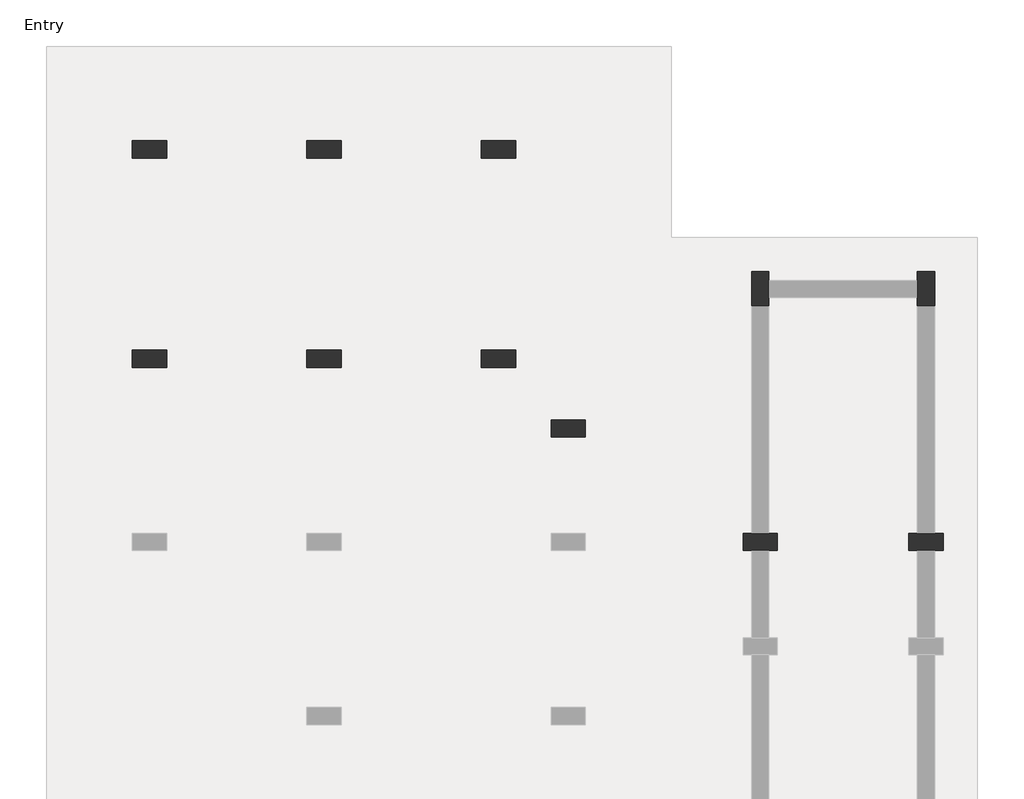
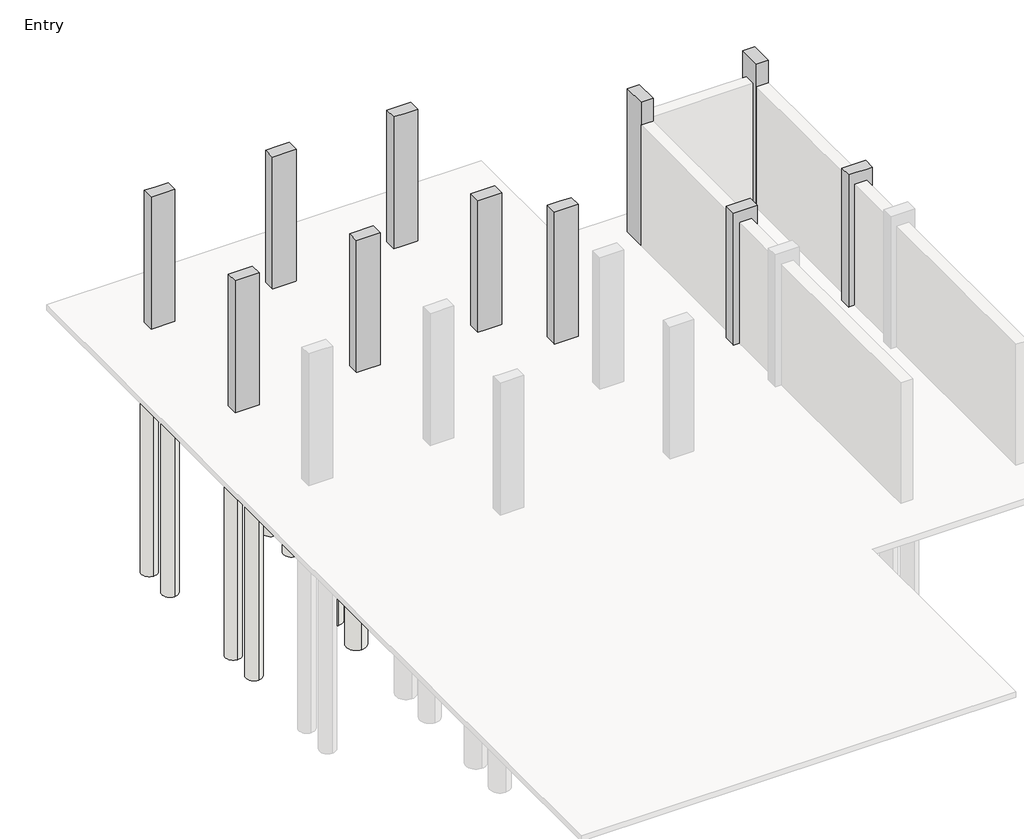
# One storey, part 3 of 3: 33 slabs, 11 columns, 4 footings.
"""IFC4 building model written with IfcOpenShell, lengths in millimetres."""

from ifc_helpers import new_model, si_unit, point, frame, frame_2d, origin, place, context, project, spatial, polyline, circle_curve, trimmed, segment, composite_curve, outline, extrude, faceted_brep, element, save

model = new_model("IFC4")

# Units and contexts
model_context = context("Model", 3, world=origin())
ifc_project = project(units=[si_unit("LENGTHUNIT", "METRE", prefix="MILLI")], contexts=[model_context])

# Site, building, storey
site = spatial("IfcSite", under=ifc_project)
building = spatial("IfcBuilding", under=site)
storey = spatial("IfcBuildingStorey", under=building, Name="Entry", Elevation=0.0)

# Columns
placement = place(None, origin())
element("IfcColumn", 1, ObjectType="M_Concrete-Rectangular-Column : 300 x 600mm", at=placement, inside=storey, context=model_context, shape_type="Brep", body=[
    faceted_brep([(-14312.7526929, 13307.19569, 0.0), (-13712.7526929, 13307.19569, 0.0), (-13712.7526929, 13007.19569, 0.0), (-14312.7526929, 13007.19569, 0.0), (-14312.7526929, 13307.19569, 3505.2), (-14012.7526929, 13307.19569, 3505.2), (-13712.7526929, 13307.19569, 3505.2), (-13712.7526929, 13307.19569, 2910.0), (-13712.7526929, 13007.19569, 3505.2), (-13712.7526929, 13007.19569, 2910.0), (-14012.7526929, 13007.19569, 3505.2), (-14162.7526929, 13007.19569, 3505.2), (-14312.7526929, 13007.19569, 3505.2)], [[[0, 1, 2, 3]], [[4, 5, 6, 7, 1, 0]], [[6, 8, 9, 2, 1, 7]], [[8, 10, 11, 12, 3, 2, 9]], [[12, 4, 0, 3]], [[4, 12, 11, 10, 8, 6, 5]]]),
])
element("IfcColumn", 2, ObjectType="M_Concrete-Rectangular-Column : 300 x 600mm", at=placement, inside=storey, context=model_context, shape_type="Brep", body=[
    faceted_brep([(-11264.7526929, 13307.19569, 0.0), (-10664.7526929, 13307.19569, 0.0), (-10664.7526929, 13007.19569, 0.0), (-11264.7526929, 13007.19569, 0.0), (-11264.7526929, 13307.19569, 3505.2), (-10964.7526929, 13307.19569, 3505.2), (-10664.7526929, 13307.19569, 3505.2), (-10664.7526929, 13307.19569, 2910.0), (-11264.7526929, 13307.19569, 2910.0), (-10664.7526929, 13007.19569, 3505.2), (-10664.7526929, 13007.19569, 2910.0), (-10814.7526929, 13007.19569, 3505.2), (-10964.7526929, 13007.19569, 3505.2), (-11264.7526929, 13007.19569, 3505.2), (-11264.7526929, 13007.19569, 2910.0)], [[[0, 1, 2, 3]], [[4, 5, 6, 7, 1, 0, 8]], [[6, 9, 10, 2, 1, 7]], [[9, 11, 12, 13, 14, 3, 2, 10]], [[13, 4, 8, 0, 3, 14]], [[4, 13, 12, 11, 9, 6, 5]]]),
])
element("IfcColumn", 3, ObjectType="M_Concrete-Rectangular-Column : 300 x 600mm", at=placement, inside=storey, context=model_context, shape_type="Brep", body=[
    faceted_brep([(-8216.7526929, 13307.19569, 0.0), (-7616.7526929, 13307.19569, 0.0), (-7616.7526929, 13007.19569, 0.0), (-8216.7526929, 13007.19569, 0.0), (-8216.7526929, 13307.19569, 3505.2), (-7916.7526929, 13307.19569, 3505.2), (-7616.7526929, 13307.19569, 3505.2), (-8216.7526929, 13307.19569, 2910.0), (-7616.7526929, 13007.19569, 3505.2), (-7766.7526929, 13007.19569, 3505.2), (-7916.7526929, 13007.19569, 3505.2), (-8216.7526929, 13007.19569, 3505.2), (-8216.7526929, 13007.19569, 2910.0)], [[[0, 1, 2, 3]], [[4, 5, 6, 1, 0, 7]], [[6, 8, 2, 1]], [[8, 9, 10, 11, 12, 3, 2]], [[11, 4, 7, 0, 3, 12]], [[4, 11, 10, 9, 8, 6, 5]]]),
])
element("IfcColumn", 4, ObjectType="M_Concrete-Rectangular-Column : 300 x 600mm", at=placement, inside=storey, context=model_context, shape_type="Brep", body=[
    faceted_brep([(-14312.7526929, 9649.59569, 0.0), (-13712.7526929, 9649.59569, 0.0), (-13712.7526929, 9349.59569, 0.0), (-14312.7526929, 9349.59569, 0.0), (-14312.7526929, 9649.59569, 3505.2), (-14162.7526929, 9649.59569, 3505.2), (-13862.7526929, 9649.59569, 3505.2), (-13712.7526929, 9649.59569, 3505.2), (-13712.7526929, 9649.59569, 2910.0), (-13712.7526929, 9349.59569, 3505.2), (-13712.7526929, 9349.59569, 2910.0), (-13862.7526929, 9349.59569, 3505.2), (-14162.7526929, 9349.59569, 3505.2), (-14312.7526929, 9349.59569, 3505.2)], [[[0, 1, 2, 3]], [[4, 5, 6, 7, 8, 1, 0]], [[7, 9, 10, 2, 1, 8]], [[9, 11, 12, 13, 3, 2, 10]], [[13, 4, 0, 3]], [[4, 13, 12, 11, 9, 7, 6, 5]]]),
])
element("IfcColumn", 5, ObjectType="M_Concrete-Rectangular-Column : 300 x 600mm", at=placement, inside=storey, context=model_context, shape_type="Brep", body=[
    faceted_brep([(-11264.7526929, 9649.59569, 0.0), (-10664.7526929, 9649.59569, 0.0), (-10664.7526929, 9349.59569, 0.0), (-11264.7526929, 9349.59569, 0.0), (-11264.7526929, 9649.59569, 3505.2), (-10664.7526929, 9649.59569, 3505.2), (-10664.7526929, 9649.59569, 2910.0), (-11264.7526929, 9649.59569, 2910.0), (-10664.7526929, 9349.59569, 3505.2), (-10664.7526929, 9349.59569, 2910.0), (-11264.7526929, 9349.59569, 3505.2), (-11264.7526929, 9349.59569, 2910.0)], [[[0, 1, 2, 3]], [[4, 5, 6, 1, 0, 7]], [[5, 8, 9, 2, 1, 6]], [[8, 10, 11, 3, 2, 9]], [[10, 4, 7, 0, 3, 11]], [[4, 10, 8, 5]]]),
])
element("IfcColumn", 6, ObjectType="M_Concrete-Rectangular-Column : 300 x 600mm", at=placement, inside=storey, context=model_context, shape_type="Brep", body=[
    faceted_brep([(-8216.7526929, 9649.59569, 0.0), (-7616.7526929, 9649.59569, 0.0), (-7616.7526929, 9349.59569, 0.0), (-8216.7526929, 9349.59569, 0.0), (-8216.7526929, 9649.59569, 3505.2), (-8066.7526929, 9649.59569, 3505.2), (-7766.7526929, 9649.59569, 3505.2), (-7616.7526929, 9649.59569, 3505.2), (-8216.7526929, 9649.59569, 2910.0), (-7616.7526929, 9349.59569, 3505.2), (-7766.7526929, 9349.59569, 3505.2), (-8066.7526929, 9349.59569, 3505.2), (-8216.7526929, 9349.59569, 3505.2), (-8216.7526929, 9349.59569, 2910.0)], [[[0, 1, 2, 3]], [[4, 5, 6, 7, 1, 0, 8]], [[7, 9, 2, 1]], [[9, 10, 11, 12, 13, 3, 2]], [[12, 4, 8, 0, 3, 13]], [[4, 12, 11, 10, 9, 7, 6, 5]]]),
])
element("IfcColumn", 7, ObjectType="M_Concrete-Rectangular-Column : 300 x 600mm", at=placement, inside=storey, context=model_context, shape_type="Brep", body=[
    faceted_brep([(-6997.5526929, 8430.39569, 0.0), (-6397.5526929, 8430.39569, 0.0), (-6397.5526929, 8130.39569, 0.0), (-6997.5526929, 8130.39569, 0.0), (-6997.5526929, 8430.39569, 3505.2), (-6697.5526929, 8430.39569, 3505.2), (-6397.5526929, 8430.39569, 3505.2), (-6997.5526929, 8430.39569, 2910.0), (-6397.5526929, 8130.39569, 3505.2), (-6547.5526929, 8130.39569, 3505.2), (-6697.5526929, 8130.39569, 3505.2), (-6997.5526929, 8130.39569, 3505.2), (-6997.5526929, 8130.39569, 2910.0)], [[[0, 1, 2, 3]], [[4, 5, 6, 1, 0, 7]], [[6, 8, 2, 1]], [[8, 9, 10, 11, 12, 3, 2]], [[11, 4, 7, 0, 3, 12]], [[4, 11, 10, 9, 8, 6, 5]]]),
])
element("IfcColumn", 8, ObjectType="M_Concrete-Rectangular-Column : 300 x 600mm", at=placement, inside=storey, context=model_context, shape_type="Brep", body=[
    faceted_brep([(-3644.7526929, 6449.19569, 0.0), (-3494.7526929, 6449.19569, 0.0), (-3194.7526929, 6449.19569, 0.0), (-3044.7526929, 6449.19569, 0.0), (-3044.7526929, 6149.19569, 0.0), (-3194.7526929, 6149.19569, 0.0), (-3494.7526929, 6149.19569, 0.0), (-3644.7526929, 6149.19569, 0.0), (-3644.7526929, 6449.19569, 2910.0), (-3644.7526929, 6449.19569, 3510.0), (-3494.7526929, 6449.19569, 3510.0), (-3194.7526929, 6449.19569, 3510.0), (-3044.7526929, 6449.19569, 3510.0), (-3044.7526929, 6449.19569, 2910.0), (-3044.7526929, 6149.19569, 3510.0), (-3044.7526929, 6149.19569, 2910.0), (-3194.7526929, 6149.19569, 3510.0), (-3494.7526929, 6149.19569, 3510.0), (-3644.7526929, 6149.19569, 3510.0), (-3644.7526929, 6149.19569, 2910.0)], [[[0, 1, 2, 3, 4, 5, 6, 7]], [[3, 2, 1, 0, 8, 9, 10, 11, 12, 13]], [[4, 3, 13, 12, 14, 15]], [[7, 6, 5, 4, 15, 14, 16, 17, 18, 19]], [[0, 7, 19, 18, 9, 8]], [[12, 11, 10, 9, 18, 17, 16, 14]]]),
])
element("IfcColumn", 9, ObjectType="M_Concrete-Rectangular-Column : 300 x 600mm", at=placement, inside=storey, context=model_context, shape_type="Brep", body=[
    faceted_brep([(-749.1526929, 6449.19569, 0.0), (-599.1526929, 6449.19569, 0.0), (-299.1526929, 6449.19569, 0.0), (-149.1526929, 6449.19569, 0.0), (-149.1526929, 6149.19569, 0.0), (-299.1526929, 6149.19569, 0.0), (-599.1526929, 6149.19569, 0.0), (-749.1526929, 6149.19569, 0.0), (-749.1526929, 6449.19569, 3510.0), (-599.1526929, 6449.19569, 3510.0), (-299.1526929, 6449.19569, 3510.0), (-149.1526929, 6449.19569, 3510.0), (-149.1526929, 6149.19569, 3510.0), (-299.1526929, 6149.19569, 3510.0), (-599.1526929, 6149.19569, 3510.0), (-749.1526929, 6149.19569, 3510.0)], [[[0, 1, 2, 3, 4, 5, 6, 7]], [[3, 2, 1, 0, 8, 9, 10, 11]], [[4, 3, 11, 12]], [[7, 6, 5, 4, 12, 13, 14, 15]], [[0, 7, 15, 8]], [[11, 10, 9, 8, 15, 14, 13, 12]]]),
])
element("IfcColumn", 10, ObjectType="M_Concrete-Rectangular-Column : 300 x 600mm", at=placement, inside=storey, context=model_context, shape_type="Brep", body=[
    faceted_brep([(-3494.7526929, 10418.79569, 0.0), (-3494.7526929, 11018.79569, 0.0), (-3194.7526929, 11018.79569, 0.0), (-3194.7526929, 10868.79569, 0.0), (-3194.7526929, 10568.79569, 0.0), (-3194.7526929, 10418.79569, 0.0), (-3494.7526929, 10418.79569, 3810.0), (-3494.7526929, 11018.79569, 3810.0), (-3494.7526929, 10418.79569, 3210.0), (-3194.7526929, 11018.79569, 3810.0), (-3194.7526929, 10418.79569, 3810.0), (-3194.7526929, 10418.79569, 3210.0)], [[[0, 1, 2, 3, 4, 5]], [[6, 7, 1, 0, 8]], [[7, 9, 2, 1]], [[9, 10, 11, 5, 4, 3, 2]], [[10, 6, 8, 0, 5, 11]], [[6, 10, 9, 7]]]),
])
element("IfcColumn", 11, ObjectType="M_Concrete-Rectangular-Column : 300 x 600mm", at=placement, inside=storey, context=model_context, shape_type="Brep", body=[
    faceted_brep([(-599.1526929, 10418.79569, 0.0), (-599.1526929, 10568.79569, 0.0), (-599.1526929, 10868.79569, 0.0), (-599.1526929, 11018.79569, 0.0), (-299.1526929, 11018.79569, 0.0), (-299.1526929, 10418.79569, 0.0), (-599.1526929, 10418.79569, 3810.0), (-599.1526929, 11018.79569, 3810.0), (-599.1526929, 10418.79569, 3210.0), (-299.1526929, 11018.79569, 3810.0), (-299.1526929, 10418.79569, 3810.0), (-299.1526929, 10418.79569, 3210.0)], [[[0, 1, 2, 3, 4, 5]], [[6, 7, 3, 2, 1, 0, 8]], [[7, 9, 4, 3]], [[9, 10, 11, 5, 4]], [[10, 6, 8, 0, 5, 11]], [[6, 10, 9, 7]]]),
])

# Footings
element("IfcFooting", 12, ObjectType="Bearing Footing - 900 x 300", at=placement, inside=storey, context=model_context, shape_type="Brep", body=[
    faceted_brep([(-3194.7526929, 11168.79569, -300.0), (-3194.7526929, 11118.79569, -300.0), (-3194.7526929, 11118.79569, -150.0), (-3194.7526929, 11168.79569, -150.0), (-3194.7526929, 10318.79569, -300.0), (-3194.7526929, 10268.79569, -300.0), (-3194.7526929, 10268.79569, -150.0), (-3194.7526929, 10318.79569, -150.0), (-599.1526929, 11118.79569, -300.0), (-599.1526929, 11168.79569, -300.0), (-599.1526929, 11168.79569, -150.0), (-599.1526929, 11118.79569, -150.0), (-599.1526929, 10268.79569, -300.0), (-599.1526929, 10318.79569, -300.0), (-599.1526929, 10318.79569, -150.0), (-599.1526929, 10268.79569, -150.0), (-1199.1526929, 11118.79569, -300.0), (-1199.1526929, 10318.79569, -300.0), (-899.1526929, 10268.79569, -300.0), (-2894.7526929, 10268.79569, -300.0), (-2594.7526929, 10318.79569, -300.0), (-2594.7526929, 11118.79569, -300.0), (-899.1526929, 10268.79569, -150.0), (-2894.7526929, 10268.79569, -150.0), (-2594.7526929, 10318.79569, -150.0), (-2594.7526929, 11118.79569, -150.0), (-1199.1526929, 10318.79569, -150.0), (-1199.1526929, 11118.79569, -150.0)], [[[0, 1, 2, 3]], [[4, 5, 6, 7]], [[8, 9, 10, 11]], [[12, 13, 14, 15]], [[9, 0, 3, 10]], [[0, 9, 8, 16, 17, 13, 12, 18, 19, 5, 4, 20, 21, 1]], [[5, 19, 18, 12, 15, 22, 23, 6]], [[20, 4, 7, 24]], [[21, 20, 24, 25]], [[1, 21, 25, 2]], [[13, 17, 26, 14]], [[16, 8, 11, 27]], [[17, 16, 27, 26]], [[3, 2, 25, 24, 7, 6, 23, 22, 15, 14, 26, 27, 11, 10]]]),
])
element("IfcFooting", 13, ObjectType="Bearing Footing - 900 x 300", at=placement, inside=storey, context=model_context, shape_type="SweptSolid", body=[
    extrude(outline(polyline([(-3794.7526929, 6449.19569), (-3794.7526929, 10318.79569), (-3194.7526929, 10318.79569), (-3194.7526929, 10268.79569), (-2894.7526929, 10268.79569), (-2894.7526929, 6449.19569), (-2944.7526929, 6449.19569), (-2944.7526929, 7049.19569), (-3744.7526929, 7049.19569), (-3744.7526929, 6449.19569), (-3794.7526929, 6449.19569)])), frame((0.0, 0.0, -300.0), z_axis=(0.0, 0.0, 1.0), x_axis=(1.0, 0.0, 0.0)), (0.0, 0.0, 1.0), 150.0),
])
element("IfcFooting", 14, ObjectType="Bearing Footing - 900 x 300", at=placement, inside=storey, context=model_context, shape_type="SweptSolid", body=[
    extrude(outline(polyline([(0.8473071, 6149.19569), (0.8473071, 4620.39569), (-49.1526929, 4620.39569), (-49.1526929, 5220.39569), (-849.1526929, 5220.39569), (-849.1526929, 4620.39569), (-899.1526929, 4620.39569), (-899.1526929, 6149.19569), (-849.1526929, 6149.19569), (-849.1526929, 5549.19569), (-49.1526929, 5549.19569), (-49.1526929, 6149.19569), (0.8473071, 6149.19569)])), frame((0.0, 0.0, -300.0), z_axis=(0.0, 0.0, 1.0), x_axis=(1.0, 0.0, 0.0)), (0.0, 0.0, 1.0), 150.0),
])
element("IfcFooting", 15, ObjectType="Bearing Footing - 900 x 300", at=placement, inside=storey, context=model_context, shape_type="SweptSolid", body=[
    extrude(outline(polyline([(0.8473071, 10318.79569), (0.8473071, 6449.19569), (-49.1526929, 6449.19569), (-49.1526929, 7049.19569), (-849.1526929, 7049.19569), (-849.1526929, 6449.19569), (-899.1526929, 6449.19569), (-899.1526929, 10268.79569), (-599.1526929, 10268.79569), (-599.1526929, 10318.79569), (0.8473071, 10318.79569)])), frame((0.0, 0.0, -300.0), z_axis=(0.0, 0.0, 1.0), x_axis=(1.0, 0.0, 0.0)), (0.0, 0.0, 1.0), 150.0),
])

# Slabs
element("IfcSlab", 16, ObjectType="M_Pile Cap-2 Pile : 800 x 1500 x 900mm", at=placement, inside=storey, context=model_context, shape_type="SweptSolid", body=[
    extrude(outline(polyline([(-14412.7526929, 13907.19569), (-13612.7526929, 13907.19569), (-13612.7526929, 12407.19569), (-14412.7526929, 12407.19569), (-14412.7526929, 13907.19569)])), frame((0.0, 0.0, -900.0), z_axis=(0.0, 0.0, 1.0), x_axis=(1.0, 0.0, 0.0)), (0.0, 0.0, 1.0), 750.0),
])
element("IfcSlab", 17, ObjectType="M_Pile Cap-2 Pile : 800 x 1500 x 900mm", at=placement, inside=storey, context=model_context, shape_type="SweptSolid", body=[
    extrude(outline(polyline([(-11364.7526929, 13907.19569), (-10564.7526929, 13907.19569), (-10564.7526929, 12407.19569), (-11364.7526929, 12407.19569), (-11364.7526929, 13907.19569)])), frame((0.0, 0.0, -900.0), z_axis=(0.0, 0.0, 1.0), x_axis=(1.0, 0.0, 0.0)), (0.0, 0.0, 1.0), 750.0),
])
element("IfcSlab", 18, ObjectType="M_Pile Cap-2 Pile : 800 x 1500 x 900mm", at=placement, inside=storey, context=model_context, shape_type="SweptSolid", body=[
    extrude(outline(polyline([(-8316.7526929, 13907.19569), (-7516.7526929, 13907.19569), (-7516.7526929, 12407.19569), (-8316.7526929, 12407.19569), (-8316.7526929, 13907.19569)])), frame((0.0, 0.0, -900.0), z_axis=(0.0, 0.0, 1.0), x_axis=(1.0, 0.0, 0.0)), (0.0, 0.0, 1.0), 750.0),
])
element("IfcSlab", 19, ObjectType="M_Pile Cap-2 Pile : 800 x 1500 x 900mm", at=placement, inside=storey, context=model_context, shape_type="SweptSolid", body=[
    extrude(outline(polyline([(-14412.7526929, 10249.59569), (-13612.7526929, 10249.59569), (-13612.7526929, 8749.59569), (-14412.7526929, 8749.59569), (-14412.7526929, 10249.59569)])), frame((0.0, 0.0, -900.0), z_axis=(0.0, 0.0, 1.0), x_axis=(1.0, 0.0, 0.0)), (0.0, 0.0, 1.0), 750.0),
])
element("IfcSlab", 20, ObjectType="M_Pile Cap-2 Pile : 800 x 1500 x 900mm", at=placement, inside=storey, context=model_context, shape_type="SweptSolid", body=[
    extrude(outline(polyline([(-8316.7526929, 10249.59569), (-7516.7526929, 10249.59569), (-7516.7526929, 8749.59569), (-8316.7526929, 8749.59569), (-8316.7526929, 10249.59569)])), frame((0.0, 0.0, -900.0), z_axis=(0.0, 0.0, 1.0), x_axis=(1.0, 0.0, 0.0)), (0.0, 0.0, 1.0), 750.0),
])
element("IfcSlab", 21, ObjectType="M_Pile Cap-2 Pile : 800 x 1500 x 900mm", at=placement, inside=storey, context=model_context, shape_type="Brep", body=[
    faceted_brep([(-4094.7526929, 10318.79569, -900.0), (-4094.7526929, 11118.79569, -900.0), (-2594.7526929, 11118.79569, -900.0), (-2594.7526929, 10318.79569, -900.0), (-2594.7526929, 10318.79569, -300.0), (-2594.7526929, 10318.79569, -150.0), (-3194.7526929, 10318.79569, -150.0), (-3794.7526929, 10318.79569, -150.0), (-4094.7526929, 10318.79569, -150.0), (-2594.7526929, 11118.79569, -300.0), (-2594.7526929, 11118.79569, -150.0), (-4094.7526929, 11118.79569, -150.0), (-3194.7526929, 11118.79569, -150.0)], [[[0, 1, 2, 3]], [[0, 3, 4, 5, 6, 7, 8]], [[3, 2, 9, 10, 5, 4]], [[2, 1, 11, 12, 10, 9]], [[1, 0, 8, 11]], [[8, 7, 6, 5, 10, 12, 11]]]),
])
element("IfcSlab", 22, ObjectType="M_Pile Cap-2 Pile : 800 x 1500 x 900mm", at=placement, inside=storey, context=model_context, shape_type="Brep", body=[
    faceted_brep([(-1199.1526929, 10318.79569, -900.0), (-1199.1526929, 11118.79569, -900.0), (300.8473071, 11118.79569, -900.0), (300.8473071, 10318.79569, -900.0), (300.8473071, 10318.79569, -150.0), (0.8473071, 10318.79569, -150.0), (-599.1526929, 10318.79569, -150.0), (-1199.1526929, 10318.79569, -150.0), (-1199.1526929, 10318.79569, -300.0), (300.8473071, 11118.79569, -150.0), (-1199.1526929, 11118.79569, -300.0), (-1199.1526929, 11118.79569, -150.0), (-599.1526929, 11118.79569, -150.0)], [[[0, 1, 2, 3]], [[0, 3, 4, 5, 6, 7, 8]], [[3, 2, 9, 4]], [[2, 1, 10, 11, 12, 9]], [[1, 0, 8, 7, 11, 10]], [[7, 6, 5, 4, 9, 12, 11]]]),
])
element("IfcSlab", 23, ObjectType="M_Pile Cap-2 Pile : 800 x 1500 x 900mm", at=placement, inside=storey, context=model_context, shape_type="Brep", body=[
    faceted_brep([(-3744.7526929, 7049.19569, -900.0), (-2944.7526929, 7049.19569, -900.0), (-2944.7526929, 5549.19569, -900.0), (-3744.7526929, 5549.19569, -900.0), (-3744.7526929, 5549.19569, -300.0), (-3744.7526929, 5549.19569, -150.0), (-3744.7526929, 6149.19569, -150.0), (-3744.7526929, 6449.19569, -150.0), (-3744.7526929, 7049.19569, -150.0), (-3744.7526929, 7049.19569, -300.0), (-2944.7526929, 5549.19569, -300.0), (-2944.7526929, 5549.19569, -150.0), (-2944.7526929, 7049.19569, -300.0), (-2944.7526929, 7049.19569, -150.0), (-2944.7526929, 6449.19569, -150.0), (-2944.7526929, 6149.19569, -150.0)], [[[0, 1, 2, 3]], [[0, 3, 4, 5, 6, 7, 8, 9]], [[3, 2, 10, 11, 5, 4]], [[2, 1, 12, 13, 14, 15, 11, 10]], [[1, 0, 9, 8, 13, 12]], [[8, 7, 6, 5, 11, 15, 14, 13]]]),
])
element("IfcSlab", 24, ObjectType="M_Pile Cap-2 Pile : 800 x 1500 x 900mm", at=placement, inside=storey, context=model_context, shape_type="Brep", body=[
    faceted_brep([(-849.1526929, 7049.19569, -900.0), (-49.1526929, 7049.19569, -900.0), (-49.1526929, 5549.19569, -900.0), (-849.1526929, 5549.19569, -900.0), (-849.1526929, 5549.19569, -300.0), (-849.1526929, 5549.19569, -150.0), (-849.1526929, 6149.19569, -150.0), (-849.1526929, 6449.19569, -150.0), (-849.1526929, 7049.19569, -150.0), (-849.1526929, 7049.19569, -300.0), (-49.1526929, 5549.19569, -300.0), (-49.1526929, 5549.19569, -150.0), (-49.1526929, 7049.19569, -300.0), (-49.1526929, 7049.19569, -150.0), (-49.1526929, 6449.19569, -150.0), (-49.1526929, 6149.19569, -150.0)], [[[0, 1, 2, 3]], [[0, 3, 4, 5, 6, 7, 8, 9]], [[3, 2, 10, 11, 5, 4]], [[2, 1, 12, 13, 14, 15, 11, 10]], [[1, 0, 9, 8, 13, 12]], [[8, 7, 6, 5, 11, 15, 14, 13]]]),
])
element("IfcSlab", 25, ObjectType="M_Pile Cap-2 Pile : 800 x 1500 x 900mm", at=placement, inside=storey, context=model_context, shape_type="SweptSolid", body=[
    extrude(outline(polyline([(-5947.5526929, 8680.39569), (-5947.5526929, 7880.39569), (-7447.5526929, 7880.39569), (-7447.5526929, 8680.39569), (-5947.5526929, 8680.39569)])), frame((0.0, 0.0, -900.0), z_axis=(0.0, 0.0, 1.0), x_axis=(1.0, 0.0, 0.0)), (0.0, 0.0, 1.0), 750.0),
])
element("IfcSlab", 26, ObjectType="M_Pile Cap-4 Pile : 1800 x 1800 x 900mm", at=placement, inside=storey, context=model_context, shape_type="SweptSolid", body=[
    extrude(outline(polyline([(-11864.7526929, 10399.59569), (-10064.7526929, 10399.59569), (-10064.7526929, 8599.59569), (-11864.7526929, 8599.59569), (-11864.7526929, 10399.59569)])), frame((0.0, 0.0, -900.0), z_axis=(0.0, 0.0, 1.0), x_axis=(1.0, 0.0, 0.0)), (0.0, 0.0, 1.0), 750.0),
])
element("IfcSlab", 27, ObjectType="M_Pile-Steel Pipe : 400mm Diameter", at=placement, inside=storey, context=model_context, shape_type="SweptSolid", body=[
    extrude(outline(composite_curve([segment(trimmed(circle_curve(frame_2d((-14012.7526929, 12707.19569)), 200.0), [point((-14012.7526929, 12507.19569))], [point((-14012.7526929, 12907.19569))], False, "CARTESIAN"), True, "CONTINUOUS"), segment(trimmed(circle_curve(frame_2d((-14012.7526929, 12707.19569)), 200.0), [point((-14012.7526929, 12907.19569))], [point((-14012.7526929, 12507.19569))], False, "CARTESIAN"), True, "CONTINUOUS")], self_intersect=False)), frame((0.0, 0.0, -6900.0), z_axis=(0.0, 0.0, 1.0), x_axis=(1.0, 0.0, 0.0)), (0.0, 0.0, 1.0), 6000.0),
])
element("IfcSlab", 28, ObjectType="M_Pile-Steel Pipe : 400mm Diameter", at=placement, inside=storey, context=model_context, shape_type="SweptSolid", body=[
    extrude(outline(composite_curve([segment(trimmed(circle_curve(frame_2d((-14012.7526929, 13607.19569)), 200.0), [point((-14012.7526929, 13407.19569))], [point((-14012.7526929, 13807.19569))], False, "CARTESIAN"), True, "CONTINUOUS"), segment(trimmed(circle_curve(frame_2d((-14012.7526929, 13607.19569)), 200.0), [point((-14012.7526929, 13807.19569))], [point((-14012.7526929, 13407.19569))], False, "CARTESIAN"), True, "CONTINUOUS")], self_intersect=False)), frame((0.0, 0.0, -6900.0), z_axis=(0.0, 0.0, 1.0), x_axis=(1.0, 0.0, 0.0)), (0.0, 0.0, 1.0), 6000.0),
])
element("IfcSlab", 29, ObjectType="M_Pile-Steel Pipe : 400mm Diameter", at=placement, inside=storey, context=model_context, shape_type="SweptSolid", body=[
    extrude(outline(composite_curve([segment(trimmed(circle_curve(frame_2d((-10964.7526929, 12707.19569)), 200.0), [point((-10964.7526929, 12507.19569))], [point((-10964.7526929, 12907.19569))], False, "CARTESIAN"), True, "CONTINUOUS"), segment(trimmed(circle_curve(frame_2d((-10964.7526929, 12707.19569)), 200.0), [point((-10964.7526929, 12907.19569))], [point((-10964.7526929, 12507.19569))], False, "CARTESIAN"), True, "CONTINUOUS")], self_intersect=False)), frame((0.0, 0.0, -6900.0), z_axis=(0.0, 0.0, 1.0), x_axis=(1.0, 0.0, 0.0)), (0.0, 0.0, 1.0), 6000.0),
])
element("IfcSlab", 30, ObjectType="M_Pile-Steel Pipe : 400mm Diameter", at=placement, inside=storey, context=model_context, shape_type="SweptSolid", body=[
    extrude(outline(composite_curve([segment(trimmed(circle_curve(frame_2d((-10964.7526929, 13607.19569)), 200.0), [point((-10964.7526929, 13407.19569))], [point((-10964.7526929, 13807.19569))], False, "CARTESIAN"), True, "CONTINUOUS"), segment(trimmed(circle_curve(frame_2d((-10964.7526929, 13607.19569)), 200.0), [point((-10964.7526929, 13807.19569))], [point((-10964.7526929, 13407.19569))], False, "CARTESIAN"), True, "CONTINUOUS")], self_intersect=False)), frame((0.0, 0.0, -6900.0), z_axis=(0.0, 0.0, 1.0), x_axis=(1.0, 0.0, 0.0)), (0.0, 0.0, 1.0), 6000.0),
])
element("IfcSlab", 31, ObjectType="M_Pile-Steel Pipe : 400mm Diameter", at=placement, inside=storey, context=model_context, shape_type="SweptSolid", body=[
    extrude(outline(composite_curve([segment(trimmed(circle_curve(frame_2d((-7916.7526929, 12707.19569)), 200.0), [point((-7916.7526929, 12507.19569))], [point((-7916.7526929, 12907.19569))], False, "CARTESIAN"), True, "CONTINUOUS"), segment(trimmed(circle_curve(frame_2d((-7916.7526929, 12707.19569)), 200.0), [point((-7916.7526929, 12907.19569))], [point((-7916.7526929, 12507.19569))], False, "CARTESIAN"), True, "CONTINUOUS")], self_intersect=False)), frame((0.0, 0.0, -6900.0), z_axis=(0.0, 0.0, 1.0), x_axis=(1.0, 0.0, 0.0)), (0.0, 0.0, 1.0), 6000.0),
])
element("IfcSlab", 32, ObjectType="M_Pile-Steel Pipe : 400mm Diameter", at=placement, inside=storey, context=model_context, shape_type="SweptSolid", body=[
    extrude(outline(composite_curve([segment(trimmed(circle_curve(frame_2d((-7916.7526929, 13607.19569)), 200.0), [point((-7916.7526929, 13407.19569))], [point((-7916.7526929, 13807.19569))], False, "CARTESIAN"), True, "CONTINUOUS"), segment(trimmed(circle_curve(frame_2d((-7916.7526929, 13607.19569)), 200.0), [point((-7916.7526929, 13807.19569))], [point((-7916.7526929, 13407.19569))], False, "CARTESIAN"), True, "CONTINUOUS")], self_intersect=False)), frame((0.0, 0.0, -6900.0), z_axis=(0.0, 0.0, 1.0), x_axis=(1.0, 0.0, 0.0)), (0.0, 0.0, 1.0), 6000.0),
])
element("IfcSlab", 33, ObjectType="M_Pile-Steel Pipe : 400mm Diameter", at=placement, inside=storey, context=model_context, shape_type="SweptSolid", body=[
    extrude(outline(composite_curve([segment(trimmed(circle_curve(frame_2d((-14012.7526929, 9049.59569)), 200.0), [point((-14012.7526929, 8849.59569))], [point((-14012.7526929, 9249.59569))], False, "CARTESIAN"), True, "CONTINUOUS"), segment(trimmed(circle_curve(frame_2d((-14012.7526929, 9049.59569)), 200.0), [point((-14012.7526929, 9249.59569))], [point((-14012.7526929, 8849.59569))], False, "CARTESIAN"), True, "CONTINUOUS")], self_intersect=False)), frame((0.0, 0.0, -6900.0), z_axis=(0.0, 0.0, 1.0), x_axis=(1.0, 0.0, 0.0)), (0.0, 0.0, 1.0), 6000.0),
])
element("IfcSlab", 34, ObjectType="M_Pile-Steel Pipe : 400mm Diameter", at=placement, inside=storey, context=model_context, shape_type="SweptSolid", body=[
    extrude(outline(composite_curve([segment(trimmed(circle_curve(frame_2d((-14012.7526929, 9949.59569)), 200.0), [point((-14012.7526929, 9749.59569))], [point((-14012.7526929, 10149.59569))], False, "CARTESIAN"), True, "CONTINUOUS"), segment(trimmed(circle_curve(frame_2d((-14012.7526929, 9949.59569)), 200.0), [point((-14012.7526929, 10149.59569))], [point((-14012.7526929, 9749.59569))], False, "CARTESIAN"), True, "CONTINUOUS")], self_intersect=False)), frame((0.0, 0.0, -6900.0), z_axis=(0.0, 0.0, 1.0), x_axis=(1.0, 0.0, 0.0)), (0.0, 0.0, 1.0), 6000.0),
])
element("IfcSlab", 35, ObjectType="M_Pile-Steel Pipe : 400mm Diameter", at=placement, inside=storey, context=model_context, shape_type="SweptSolid", body=[
    extrude(outline(composite_curve([segment(trimmed(circle_curve(frame_2d((-7916.7526929, 9049.59569)), 200.0), [point((-7916.7526929, 8849.59569))], [point((-7916.7526929, 9249.59569))], False, "CARTESIAN"), True, "CONTINUOUS"), segment(trimmed(circle_curve(frame_2d((-7916.7526929, 9049.59569)), 200.0), [point((-7916.7526929, 9249.59569))], [point((-7916.7526929, 8849.59569))], False, "CARTESIAN"), True, "CONTINUOUS")], self_intersect=False)), frame((0.0, 0.0, -6900.0), z_axis=(0.0, 0.0, 1.0), x_axis=(1.0, 0.0, 0.0)), (0.0, 0.0, 1.0), 6000.0),
])
element("IfcSlab", 36, ObjectType="M_Pile-Steel Pipe : 400mm Diameter", at=placement, inside=storey, context=model_context, shape_type="SweptSolid", body=[
    extrude(outline(composite_curve([segment(trimmed(circle_curve(frame_2d((-7916.7526929, 9949.59569)), 200.0), [point((-7916.7526929, 9749.59569))], [point((-7916.7526929, 10149.59569))], False, "CARTESIAN"), True, "CONTINUOUS"), segment(trimmed(circle_curve(frame_2d((-7916.7526929, 9949.59569)), 200.0), [point((-7916.7526929, 10149.59569))], [point((-7916.7526929, 9749.59569))], False, "CARTESIAN"), True, "CONTINUOUS")], self_intersect=False)), frame((0.0, 0.0, -6900.0), z_axis=(0.0, 0.0, 1.0), x_axis=(1.0, 0.0, 0.0)), (0.0, 0.0, 1.0), 6000.0),
])
element("IfcSlab", 37, ObjectType="M_Pile-Steel Pipe : 400mm Diameter", at=placement, inside=storey, context=model_context, shape_type="SweptSolid", body=[
    extrude(outline(composite_curve([segment(trimmed(circle_curve(frame_2d((-2894.7526929, 10718.79569)), 200.0), [point((-2694.7526929, 10718.79569))], [point((-3094.7526929, 10718.79569))], False, "CARTESIAN"), True, "CONTINUOUS"), segment(trimmed(circle_curve(frame_2d((-2894.7526929, 10718.79569)), 200.0), [point((-3094.7526929, 10718.79569))], [point((-2694.7526929, 10718.79569))], False, "CARTESIAN"), True, "CONTINUOUS")], self_intersect=False)), frame((0.0, 0.0, -6900.0), z_axis=(0.0, 0.0, 1.0), x_axis=(1.0, 0.0, 0.0)), (0.0, 0.0, 1.0), 6000.0),
])
element("IfcSlab", 38, ObjectType="M_Pile-Steel Pipe : 400mm Diameter", at=placement, inside=storey, context=model_context, shape_type="SweptSolid", body=[
    extrude(outline(composite_curve([segment(trimmed(circle_curve(frame_2d((-3794.7526929, 10718.79569)), 200.0), [point((-3594.7526929, 10718.79569))], [point((-3994.7526929, 10718.79569))], False, "CARTESIAN"), True, "CONTINUOUS"), segment(trimmed(circle_curve(frame_2d((-3794.7526929, 10718.79569)), 200.0), [point((-3994.7526929, 10718.79569))], [point((-3594.7526929, 10718.79569))], False, "CARTESIAN"), True, "CONTINUOUS")], self_intersect=False)), frame((0.0, 0.0, -6900.0), z_axis=(0.0, 0.0, 1.0), x_axis=(1.0, 0.0, 0.0)), (0.0, 0.0, 1.0), 6000.0),
])
element("IfcSlab", 39, ObjectType="M_Pile-Steel Pipe : 400mm Diameter", at=placement, inside=storey, context=model_context, shape_type="SweptSolid", body=[
    extrude(outline(composite_curve([segment(trimmed(circle_curve(frame_2d((0.8473071, 10718.79569)), 200.0), [point((200.8473071, 10718.79569))], [point((-199.1526929, 10718.79569))], False, "CARTESIAN"), True, "CONTINUOUS"), segment(trimmed(circle_curve(frame_2d((0.8473071, 10718.79569)), 200.0), [point((-199.1526929, 10718.79569))], [point((200.8473071, 10718.79569))], False, "CARTESIAN"), True, "CONTINUOUS")], self_intersect=False)), frame((0.0, 0.0, -6900.0), z_axis=(0.0, 0.0, 1.0), x_axis=(1.0, 0.0, 0.0)), (0.0, 0.0, 1.0), 6000.0),
])
element("IfcSlab", 40, ObjectType="M_Pile-Steel Pipe : 400mm Diameter", at=placement, inside=storey, context=model_context, shape_type="SweptSolid", body=[
    extrude(outline(composite_curve([segment(trimmed(circle_curve(frame_2d((-899.1526929, 10718.79569)), 200.0), [point((-699.1526929, 10718.79569))], [point((-1099.1526929, 10718.79569))], False, "CARTESIAN"), True, "CONTINUOUS"), segment(trimmed(circle_curve(frame_2d((-899.1526929, 10718.79569)), 200.0), [point((-1099.1526929, 10718.79569))], [point((-699.1526929, 10718.79569))], False, "CARTESIAN"), True, "CONTINUOUS")], self_intersect=False)), frame((0.0, 0.0, -6900.0), z_axis=(0.0, 0.0, 1.0), x_axis=(1.0, 0.0, 0.0)), (0.0, 0.0, 1.0), 6000.0),
])
element("IfcSlab", 41, ObjectType="M_Pile-Steel Pipe : 400mm Diameter", at=placement, inside=storey, context=model_context, shape_type="SweptSolid", body=[
    extrude(outline(composite_curve([segment(trimmed(circle_curve(frame_2d((-3344.7526929, 6749.19569)), 200.0), [point((-3344.7526929, 6549.19569))], [point((-3344.7526929, 6949.19569))], False, "CARTESIAN"), True, "CONTINUOUS"), segment(trimmed(circle_curve(frame_2d((-3344.7526929, 6749.19569)), 200.0), [point((-3344.7526929, 6949.19569))], [point((-3344.7526929, 6549.19569))], False, "CARTESIAN"), True, "CONTINUOUS")], self_intersect=False)), frame((0.0, 0.0, -6900.0), z_axis=(0.0, 0.0, 1.0), x_axis=(1.0, 0.0, 0.0)), (0.0, 0.0, 1.0), 6000.0),
])
element("IfcSlab", 42, ObjectType="M_Pile-Steel Pipe : 400mm Diameter", at=placement, inside=storey, context=model_context, shape_type="SweptSolid", body=[
    extrude(outline(composite_curve([segment(trimmed(circle_curve(frame_2d((-449.1526929, 6749.19569)), 200.0), [point((-449.1526929, 6549.19569))], [point((-449.1526929, 6949.19569))], False, "CARTESIAN"), True, "CONTINUOUS"), segment(trimmed(circle_curve(frame_2d((-449.1526929, 6749.19569)), 200.0), [point((-449.1526929, 6949.19569))], [point((-449.1526929, 6549.19569))], False, "CARTESIAN"), True, "CONTINUOUS")], self_intersect=False)), frame((0.0, 0.0, -6900.0), z_axis=(0.0, 0.0, 1.0), x_axis=(1.0, 0.0, 0.0)), (0.0, 0.0, 1.0), 6000.0),
])
element("IfcSlab", 43, ObjectType="M_Pile-Steel Pipe : 400mm Diameter", at=placement, inside=storey, context=model_context, shape_type="SweptSolid", body=[
    extrude(outline(composite_curve([segment(trimmed(circle_curve(frame_2d((-7147.5526929, 8280.39569)), 200.0), [point((-7347.5526929, 8280.39569))], [point((-6947.5526929, 8280.39569))], False, "CARTESIAN"), True, "CONTINUOUS"), segment(trimmed(circle_curve(frame_2d((-7147.5526929, 8280.39569)), 200.0), [point((-6947.5526929, 8280.39569))], [point((-7347.5526929, 8280.39569))], False, "CARTESIAN"), True, "CONTINUOUS")], self_intersect=False)), frame((0.0, 0.0, -6900.0), z_axis=(0.0, 0.0, 1.0), x_axis=(1.0, 0.0, 0.0)), (0.0, 0.0, 1.0), 6000.0),
])
element("IfcSlab", 44, ObjectType="M_Pile-Steel Pipe : 400mm Diameter", at=placement, inside=storey, context=model_context, shape_type="SweptSolid", body=[
    extrude(outline(composite_curve([segment(trimmed(circle_curve(frame_2d((-6247.5526929, 8280.39569)), 200.0), [point((-6447.5526929, 8280.39569))], [point((-6047.5526929, 8280.39569))], False, "CARTESIAN"), True, "CONTINUOUS"), segment(trimmed(circle_curve(frame_2d((-6247.5526929, 8280.39569)), 200.0), [point((-6047.5526929, 8280.39569))], [point((-6447.5526929, 8280.39569))], False, "CARTESIAN"), True, "CONTINUOUS")], self_intersect=False)), frame((0.0, 0.0, -6900.0), z_axis=(0.0, 0.0, 1.0), x_axis=(1.0, 0.0, 0.0)), (0.0, 0.0, 1.0), 6000.0),
])
element("IfcSlab", 45, ObjectType="M_Pile-Steel Pipe : 500mm Diameter", at=placement, inside=storey, context=model_context, shape_type="SweptSolid", body=[
    extrude(outline(composite_curve([segment(trimmed(circle_curve(frame_2d((-10444.7526929, 8979.59569)), 250.0), [point((-10444.7526929, 8729.59569))], [point((-10444.7526929, 9229.59569))], False, "CARTESIAN"), True, "CONTINUOUS"), segment(trimmed(circle_curve(frame_2d((-10444.7526929, 8979.59569)), 250.0), [point((-10444.7526929, 9229.59569))], [point((-10444.7526929, 8729.59569))], False, "CARTESIAN"), True, "CONTINUOUS")], self_intersect=False)), frame((0.0, 0.0, -6900.0), z_axis=(0.0, 0.0, 1.0), x_axis=(1.0, 0.0, 0.0)), (0.0, 0.0, 1.0), 6000.0),
])
element("IfcSlab", 46, ObjectType="M_Pile-Steel Pipe : 500mm Diameter", at=placement, inside=storey, context=model_context, shape_type="SweptSolid", body=[
    extrude(outline(composite_curve([segment(trimmed(circle_curve(frame_2d((-10444.7526929, 10019.59569)), 250.0), [point((-10444.7526929, 9769.59569))], [point((-10444.7526929, 10269.59569))], False, "CARTESIAN"), True, "CONTINUOUS"), segment(trimmed(circle_curve(frame_2d((-10444.7526929, 10019.59569)), 250.0), [point((-10444.7526929, 10269.59569))], [point((-10444.7526929, 9769.59569))], False, "CARTESIAN"), True, "CONTINUOUS")], self_intersect=False)), frame((0.0, 0.0, -6900.0), z_axis=(0.0, 0.0, 1.0), x_axis=(1.0, 0.0, 0.0)), (0.0, 0.0, 1.0), 6000.0),
])
element("IfcSlab", 47, ObjectType="M_Pile-Steel Pipe : 500mm Diameter", at=placement, inside=storey, context=model_context, shape_type="SweptSolid", body=[
    extrude(outline(composite_curve([segment(trimmed(circle_curve(frame_2d((-11484.7526929, 10019.59569)), 250.0), [point((-11484.7526929, 9769.59569))], [point((-11484.7526929, 10269.59569))], False, "CARTESIAN"), True, "CONTINUOUS"), segment(trimmed(circle_curve(frame_2d((-11484.7526929, 10019.59569)), 250.0), [point((-11484.7526929, 10269.59569))], [point((-11484.7526929, 9769.59569))], False, "CARTESIAN"), True, "CONTINUOUS")], self_intersect=False)), frame((0.0, 0.0, -6900.0), z_axis=(0.0, 0.0, 1.0), x_axis=(1.0, 0.0, 0.0)), (0.0, 0.0, 1.0), 6000.0),
])
element("IfcSlab", 48, ObjectType="M_Pile-Steel Pipe : 500mm Diameter", at=placement, inside=storey, context=model_context, shape_type="SweptSolid", body=[
    extrude(outline(composite_curve([segment(trimmed(circle_curve(frame_2d((-11484.7526929, 8979.59569)), 250.0), [point((-11484.7526929, 8729.59569))], [point((-11484.7526929, 9229.59569))], False, "CARTESIAN"), True, "CONTINUOUS"), segment(trimmed(circle_curve(frame_2d((-11484.7526929, 8979.59569)), 250.0), [point((-11484.7526929, 9229.59569))], [point((-11484.7526929, 8729.59569))], False, "CARTESIAN"), True, "CONTINUOUS")], self_intersect=False)), frame((0.0, 0.0, -6900.0), z_axis=(0.0, 0.0, 1.0), x_axis=(1.0, 0.0, 0.0)), (0.0, 0.0, 1.0), 6000.0),
])

save(model, "model.ifc")
